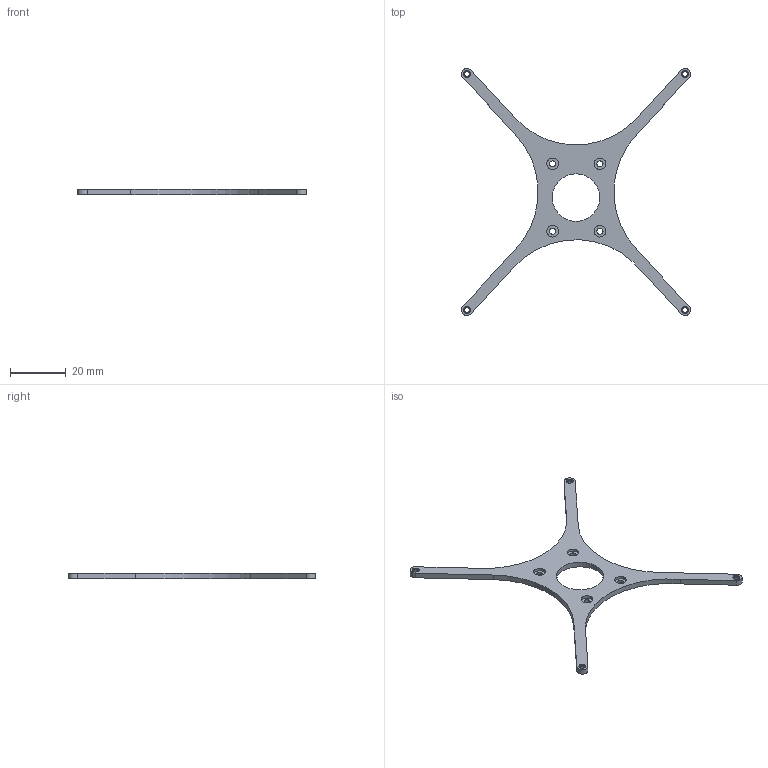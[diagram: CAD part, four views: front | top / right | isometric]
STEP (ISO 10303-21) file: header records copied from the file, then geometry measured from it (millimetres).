
FILE_DESCRIPTION((''),'2;1');
FILE_NAME('NEW_TRASU','2020-03-13T',('g0715'),(''),'PRO/ENGINEER BY PARAMETRIC TECHNOLOGY CORPORATION, 2014090','PRO/ENGINEER BY PARAMETRIC TECHNOLOGY CORPORATION, 2014090','');
FILE_SCHEMA(('CONFIG_CONTROL_DESIGN'));
Length unit declared in the file: millimetre
Products named in the file (1): NEW_TRASU
Bounding box: 82 x 88.49 x 2 mm (x, y, z)
Volume: 2847.8 mm3; surface area: 3962.9 mm2
Topology: 1 solids, 1 shells, 60 faces, 150 edges, 100 vertices
Faces by surface type: cylinder 42, plane 18
Entity records: 1912 total; most frequent: DIRECTION 354, CARTESIAN_POINT 310, ORIENTED_EDGE 300, EDGE_CURVE 150, AXIS2_PLACEMENT_3D 144, VERTEX_POINT 100, EDGE_LOOP 86, CIRCLE 84
